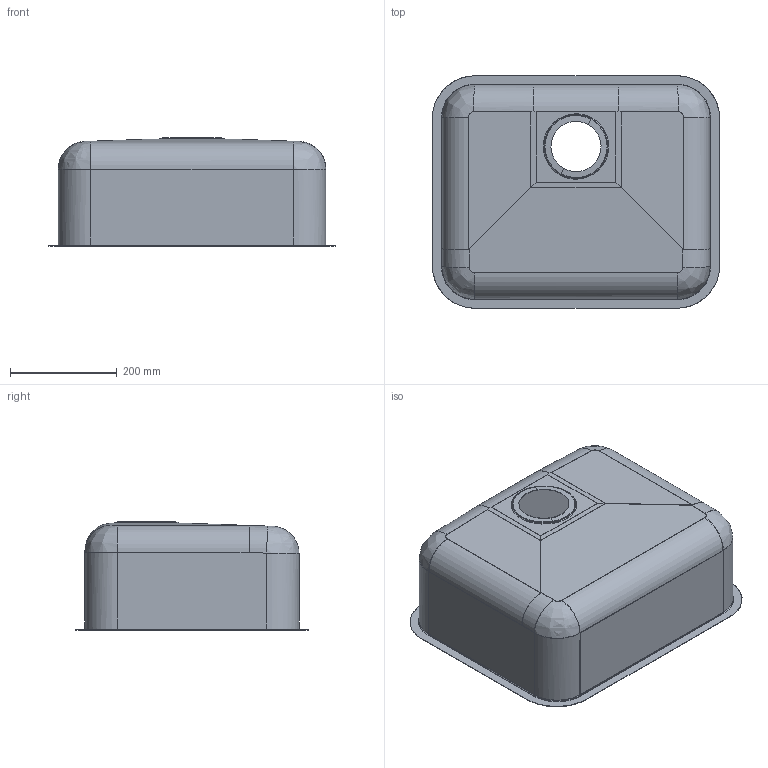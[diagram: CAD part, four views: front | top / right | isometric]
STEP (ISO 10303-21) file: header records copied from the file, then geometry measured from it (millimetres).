
FILE_DESCRIPTION(('CATIA V5 STEP Exchange'),'2;1');
FILE_NAME('M:\DISEGNI\LAVELLI\Ferrara\Parti\FE500UBC.stp','2019-05-21T12:24:54+00:00',('none'),('none'),'CATIA Version 5-6 Release 2014','CATIA V5 STEP AP203','none');
FILE_SCHEMA(('CONFIG_CONTROL_DESIGN'));
Length unit declared in the file: millimetre
Products named in the file (1): Vasca 50x40
Bounding box: 539 x 436 x 203.51 mm (x, y, z)
Volume: 413015.2 mm3; surface area: 1034394.3 mm2
Topology: 1 solids, 1 shells, 116 faces, 284 edges, 172 vertices
Faces by surface type: cylinder 54, plane 30, torus 16, cone 8, bspline 8
Entity records: 4262 total; most frequent: CARTESIAN_POINT 1682, ORIENTED_EDGE 568, DIRECTION 420, EDGE_CURVE 284, AXIS2_PLACEMENT_3D 184, VERTEX_POINT 172, VECTOR 135, LINE 135
